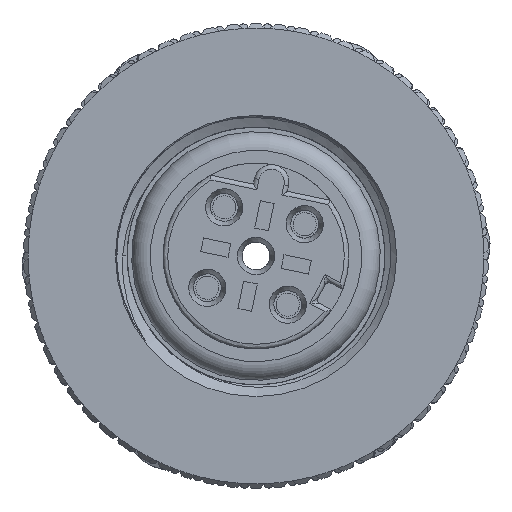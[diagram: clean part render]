
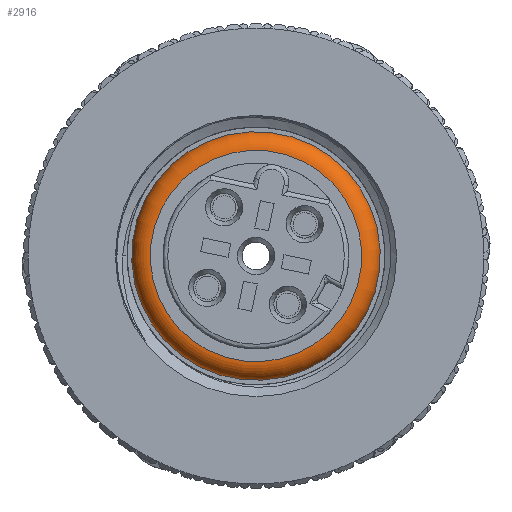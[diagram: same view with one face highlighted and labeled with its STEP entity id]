
A CAD part, front view. The second image highlights one B-rep face of the part: STEP entity #2916.
In plain terms, the highlighted toroidal (fillet/blend) face has major radius 4.55 mm and minor radius 0.8 mm.
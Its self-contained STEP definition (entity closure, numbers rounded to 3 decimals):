
#159=TOROIDAL_SURFACE('',#23110,4.55,0.8);
#2916=ADVANCED_FACE('',(#6523,#6524),#159,.T.);
#4801=CIRCLE('',#23015,5.35);
#4802=CIRCLE('',#23017,4.55);
#6523=FACE_BOUND('',#7339,.T.);
#6524=FACE_BOUND('',#7340,.T.);
#7339=EDGE_LOOP('',(#10778));
#7340=EDGE_LOOP('',(#10779));
#10778=ORIENTED_EDGE('',*,*,#17874,.F.);
#10779=ORIENTED_EDGE('',*,*,#17875,.F.);
#15568=VERTEX_POINT('',#35770);
#15569=VERTEX_POINT('',#35773);
#17874=EDGE_CURVE('',#15568,#15568,#4801,.T.);
#17875=EDGE_CURVE('',#15569,#15569,#4802,.T.);
#23015=AXIS2_PLACEMENT_3D('',#35769,#27020,#27021);
#23017=AXIS2_PLACEMENT_3D('',#35772,#27024,#27025);
#23110=AXIS2_PLACEMENT_3D('',#35995,#27285,#27286);
#27020=DIRECTION('',(0.,1.,0.));
#27021=DIRECTION('',(0.547,0.,-0.837));
#27024=DIRECTION('',(0.,-1.,0.));
#27025=DIRECTION('',(0.547,0.,-0.837));
#27285=DIRECTION('',(0.,-1.,0.));
#27286=DIRECTION('',(-0.547,0.,0.837));
#35769=CARTESIAN_POINT('',(0.,54.209,0.));
#35770=CARTESIAN_POINT('',(2.926,54.209,-4.479));
#35772=CARTESIAN_POINT('',(0.,53.409,0.));
#35773=CARTESIAN_POINT('',(2.489,53.409,-3.809));
#35995=CARTESIAN_POINT('',(0.,54.209,0.));
